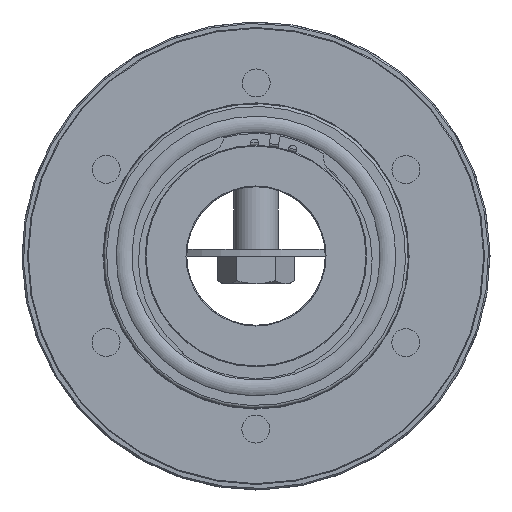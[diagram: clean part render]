
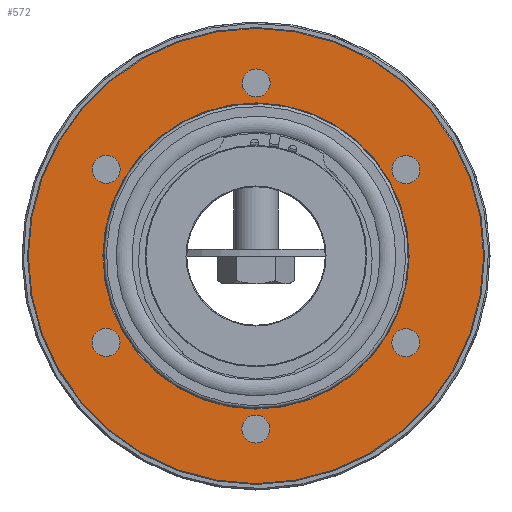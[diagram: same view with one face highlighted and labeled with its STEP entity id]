
A CAD part, left-side view. The second image highlights one B-rep face of the part: STEP entity #572.
In plain terms, the highlighted planar face has unit normal (-1, 0, 0).
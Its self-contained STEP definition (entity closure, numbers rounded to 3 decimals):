
#572 = ADVANCED_FACE( '', ( #1111, #1112, #1113, #1114, #1115, #1116, #1117, #1118 ), #1119, .F. );
#1111 = FACE_OUTER_BOUND( '', #1650, .T. );
#1112 = FACE_BOUND( '', #1651, .T. );
#1113 = FACE_BOUND( '', #1652, .T. );
#1114 = FACE_BOUND( '', #1653, .T. );
#1115 = FACE_BOUND( '', #1654, .T. );
#1116 = FACE_BOUND( '', #1655, .T. );
#1117 = FACE_BOUND( '', #1656, .T. );
#1118 = FACE_BOUND( '', #1657, .T. );
#1119 = PLANE( '', #1658 );
#1650 = EDGE_LOOP( '', ( #2739 ) );
#1651 = EDGE_LOOP( '', ( #2740 ) );
#1652 = EDGE_LOOP( '', ( #2741 ) );
#1653 = EDGE_LOOP( '', ( #2742 ) );
#1654 = EDGE_LOOP( '', ( #2743 ) );
#1655 = EDGE_LOOP( '', ( #2744 ) );
#1656 = EDGE_LOOP( '', ( #2745 ) );
#1657 = EDGE_LOOP( '', ( #2746 ) );
#1658 = AXIS2_PLACEMENT_3D( '', #2747, #2748, #2749 );
#2739 = ORIENTED_EDGE( '', *, *, #3097, .T. );
#2740 = ORIENTED_EDGE( '', *, *, #3095, .T. );
#2741 = ORIENTED_EDGE( '', *, *, #3102, .T. );
#2742 = ORIENTED_EDGE( '', *, *, #3103, .T. );
#2743 = ORIENTED_EDGE( '', *, *, #3104, .T. );
#2744 = ORIENTED_EDGE( '', *, *, #3105, .T. );
#2745 = ORIENTED_EDGE( '', *, *, #3106, .T. );
#2746 = ORIENTED_EDGE( '', *, *, #3107, .T. );
#2747 = CARTESIAN_POINT( '', ( -30.7, 82.5, 0. ) );
#2748 = DIRECTION( '', ( 1., 0., 0. ) );
#2749 = DIRECTION( '', ( 0., 1., 0. ) );
#3095 = EDGE_CURVE( '', #3598, #3598, #3599, .T. );
#3097 = EDGE_CURVE( '', #3602, #3602, #3603, .T. );
#3102 = EDGE_CURVE( '', #3612, #3612, #3613, .T. );
#3103 = EDGE_CURVE( '', #3614, #3614, #3615, .T. );
#3104 = EDGE_CURVE( '', #3616, #3616, #3617, .T. );
#3105 = EDGE_CURVE( '', #3618, #3618, #3619, .T. );
#3106 = EDGE_CURVE( '', #3620, #3620, #3621, .T. );
#3107 = EDGE_CURVE( '', #3622, #3622, #3623, .T. );
#3598 = VERTEX_POINT( '', #4636 );
#3599 = CIRCLE( '', #4637, 55.3 );
#3602 = VERTEX_POINT( '', #4640 );
#3603 = CIRCLE( '', #4641, 82.2 );
#3612 = VERTEX_POINT( '', #4650 );
#3613 = CIRCLE( '', #4651, 5.053 );
#3614 = VERTEX_POINT( '', #4652 );
#3615 = CIRCLE( '', #4653, 5.053 );
#3616 = VERTEX_POINT( '', #4654 );
#3617 = CIRCLE( '', #4655, 5.053 );
#3618 = VERTEX_POINT( '', #4656 );
#3619 = CIRCLE( '', #4657, 5.053 );
#3620 = VERTEX_POINT( '', #4658 );
#3621 = CIRCLE( '', #4659, 5.053 );
#3622 = VERTEX_POINT( '', #4660 );
#3623 = CIRCLE( '', #4661, 5.053 );
#4636 = CARTESIAN_POINT( '', ( -30.7, 0., -55.3 ) );
#4637 = AXIS2_PLACEMENT_3D( '', #5238, #5239, #5240 );
#4640 = CARTESIAN_POINT( '', ( -30.7, 0., -82.2 ) );
#4641 = AXIS2_PLACEMENT_3D( '', #5244, #5245, #5246 );
#4650 = CARTESIAN_POINT( '', ( -30.7, 58.503, 33.777 ) );
#4651 = AXIS2_PLACEMENT_3D( '', #5259, #5260, #5261 );
#4652 = CARTESIAN_POINT( '', ( -30.7, 58.503, -33.777 ) );
#4653 = AXIS2_PLACEMENT_3D( '', #5262, #5263, #5264 );
#4654 = CARTESIAN_POINT( '', ( -30.7, 0., -67.553 ) );
#4655 = AXIS2_PLACEMENT_3D( '', #5265, #5266, #5267 );
#4656 = CARTESIAN_POINT( '', ( -30.7, -58.503, -33.777 ) );
#4657 = AXIS2_PLACEMENT_3D( '', #5268, #5269, #5270 );
#4658 = CARTESIAN_POINT( '', ( -30.7, -58.503, 33.777 ) );
#4659 = AXIS2_PLACEMENT_3D( '', #5271, #5272, #5273 );
#4660 = CARTESIAN_POINT( '', ( -30.7, 0., 67.553 ) );
#4661 = AXIS2_PLACEMENT_3D( '', #5274, #5275, #5276 );
#5238 = CARTESIAN_POINT( '', ( -30.7, 0., 0. ) );
#5239 = DIRECTION( '', ( 1., 0., 0. ) );
#5240 = DIRECTION( '', ( 0., 0., -1. ) );
#5244 = CARTESIAN_POINT( '', ( -30.7, 0., 0. ) );
#5245 = DIRECTION( '', ( -1., 0., 0. ) );
#5246 = DIRECTION( '', ( 0., 0., -1. ) );
#5259 = CARTESIAN_POINT( '', ( -30.7, 54.127, 31.25 ) );
#5260 = DIRECTION( '', ( 1., 0., 0. ) );
#5261 = DIRECTION( '', ( 0., 0.866, 0.5 ) );
#5262 = CARTESIAN_POINT( '', ( -30.7, 54.127, -31.25 ) );
#5263 = DIRECTION( '', ( 1., 0., 0. ) );
#5264 = DIRECTION( '', ( 0., 0.866, -0.5 ) );
#5265 = CARTESIAN_POINT( '', ( -30.7, 0., -62.5 ) );
#5266 = DIRECTION( '', ( 1., 0., 0. ) );
#5267 = DIRECTION( '', ( 0., 0., -1. ) );
#5268 = CARTESIAN_POINT( '', ( -30.7, -54.127, -31.25 ) );
#5269 = DIRECTION( '', ( 1., 0., 0. ) );
#5270 = DIRECTION( '', ( 0., -0.866, -0.5 ) );
#5271 = CARTESIAN_POINT( '', ( -30.7, -54.127, 31.25 ) );
#5272 = DIRECTION( '', ( 1., 0., 0. ) );
#5273 = DIRECTION( '', ( 0., -0.866, 0.5 ) );
#5274 = CARTESIAN_POINT( '', ( -30.7, 0., 62.5 ) );
#5275 = DIRECTION( '', ( 1., 0., 0. ) );
#5276 = DIRECTION( '', ( 0., 0., 1. ) );
